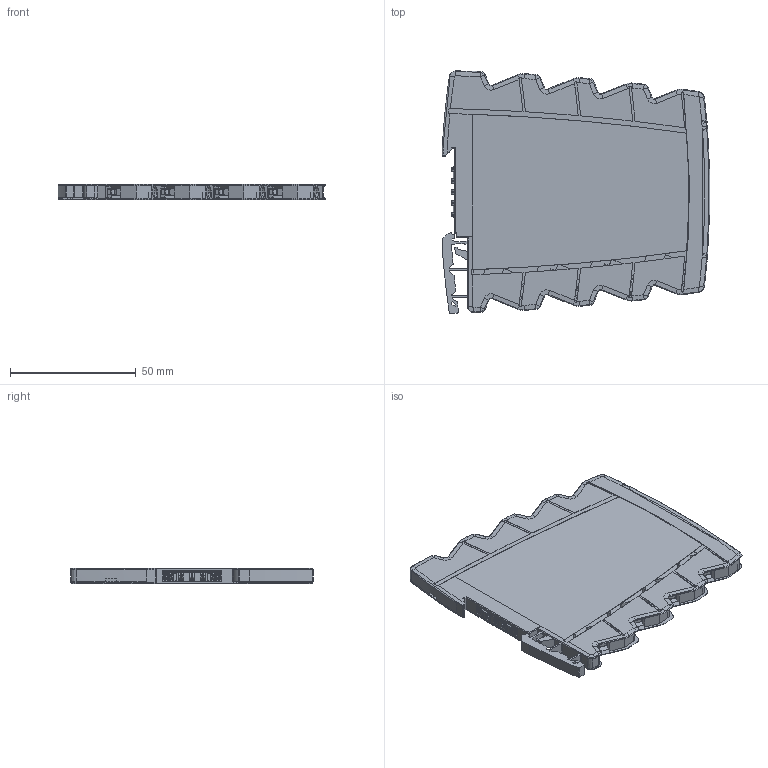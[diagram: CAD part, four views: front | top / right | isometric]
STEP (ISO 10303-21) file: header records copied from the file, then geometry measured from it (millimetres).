
FILE_DESCRIPTION(/* description */ (''),/* implementation_level */ '2;1');
FILE_NAME(/* name */ 'K:\Produkte_Inventor\99-Gehaeuse\KS4460\ZN_und_Modelle_in_Arbeit\ET_und_BG\step\KS4460_Gehäuset_Skalierung_real_Kunde_gef.stp',/* time_stamp */ '2016-06-17T15:30:02+02:00',/* author */ ('wea'),/* organization */ (''),/* preprocessor_version */ 'ST-DEVELOPER v16.5',/* originating_system */ 'Autodesk Inventor 2017',/* authorisation */ '');
FILE_SCHEMA (('AUTOMOTIVE_DESIGN { 1 0 10303 214 3 1 1 }'));
Products named in the file (1): KS4460_Gehäuset_Skalierung_real_Kunde_gef
Bounding box: 106.41 x 96.48 x 6.2 mm (x, y, z)
Volume: 50402.7 mm3; surface area: 27334.9 mm2
Topology: 1 solids, 61 shells, 2286 faces, 6019 edges, 3811 vertices
Faces by surface type: plane 1520, bspline 518, cylinder 224, cone 16, torus 6, sphere 2
Full cylindrical faces by diameter (mm): 1.2 x2, 4.4 x8
Entity records: 75841 total; most frequent: CARTESIAN_POINT 20558, ORIENTED_EDGE 11982, DIRECTION 10745, EDGE_CURVE 5991, LINE 4569, VECTOR 4569, VERTEX_POINT 3811, AXIS2_PLACEMENT_3D 3088
